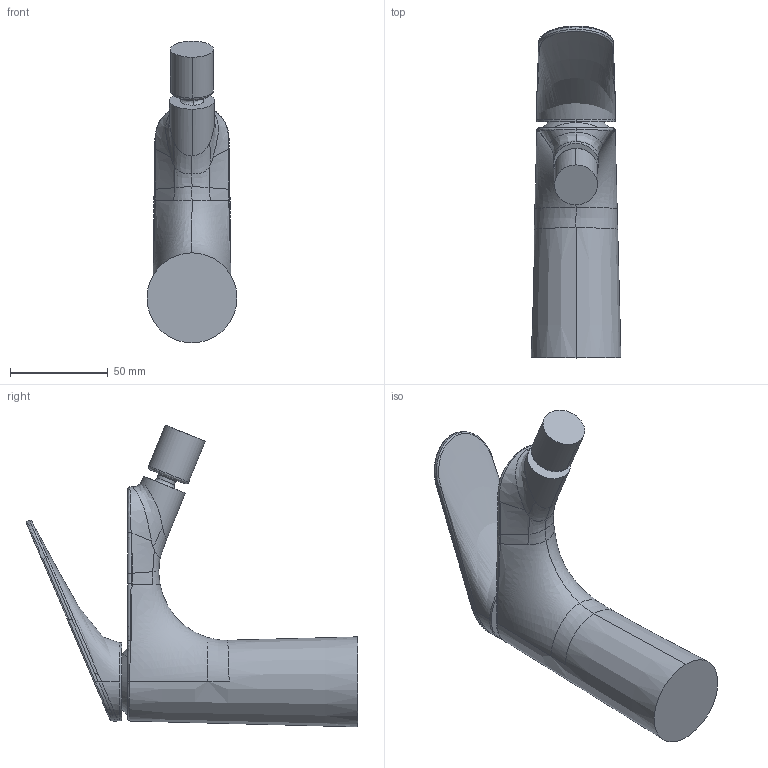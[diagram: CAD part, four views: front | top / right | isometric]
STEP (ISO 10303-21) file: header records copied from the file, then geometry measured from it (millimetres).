
FILE_DESCRIPTION (( 'STEP AP203' ), '1' );
FILE_NAME ('37432263(2025).STEP', '2024-12-17T12:44:43', ( '' ), ( '' ), 'SwSTEP 2.0', 'SolidWorks 2024', '' );
FILE_SCHEMA (( 'CONFIG_CONTROL_DESIGN' ));
Length unit declared in the file: millimetre
Products named in the file (1): 37432263(2025)
Bounding box: 45.98 x 169.45 x 154.18 mm (x, y, z)
Volume: 267264.5 mm3; surface area: 37995.1 mm2
Topology: 1 solids, 1 shells, 95 faces, 245 edges, 153 vertices
Faces by surface type: bspline 80, cylinder 6, plane 6, cone 3
Entity records: 19380 total; most frequent: CARTESIAN_POINT 17638, ORIENTED_EDGE 484, EDGE_CURVE 242, B_SPLINE_CURVE_WITH_KNOTS 177, VERTEX_POINT 153, DIRECTION 119, EDGE_LOOP 99, ADVANCED_FACE 95
